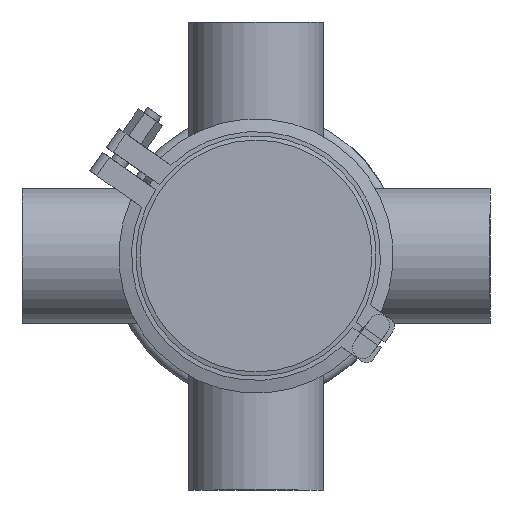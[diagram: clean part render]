
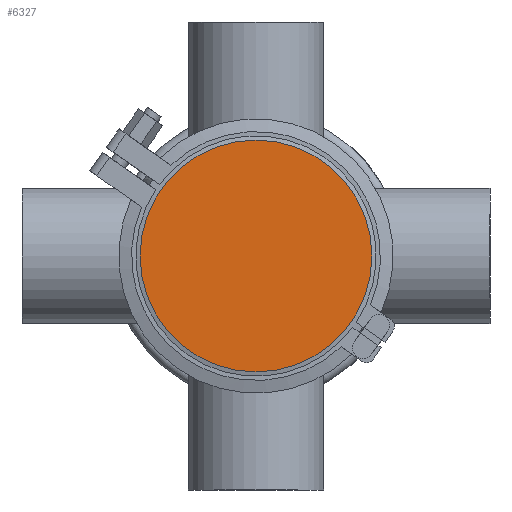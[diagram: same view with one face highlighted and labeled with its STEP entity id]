
A CAD part, front view. The second image highlights one B-rep face of the part: STEP entity #6327.
In plain terms, the highlighted planar face has unit normal (0, -1, 0).
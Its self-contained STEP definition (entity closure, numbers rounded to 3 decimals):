
#267 = PLANE ( 'NONE',  #8307 ) ;
#340 = DIRECTION ( 'NONE',  ( 0., 0., 1. ) ) ;
#2397 = CARTESIAN_POINT ( 'NONE',  ( 0., 0., 54.5 ) ) ;
#4189 = VERTEX_POINT ( 'NONE', #2397 ) ;
#6327 = ADVANCED_FACE ( 'NONE', ( #13768 ), #267, .T. ) ;
#7644 = CIRCLE ( 'NONE', #9025, 54.5 ) ;
#8307 = AXIS2_PLACEMENT_3D ( 'NONE', #13550, #11722, #18390 ) ;
#8802 = CARTESIAN_POINT ( 'NONE',  ( 0., 0., 0. ) ) ;
#9025 = AXIS2_PLACEMENT_3D ( 'NONE', #8802, #16859, #340 ) ;
#11722 = DIRECTION ( 'NONE',  ( 0., -1., 0. ) ) ;
#13550 = CARTESIAN_POINT ( 'NONE',  ( -54.5, 0., 0. ) ) ;
#13768 = FACE_OUTER_BOUND ( 'NONE', #14971, .T. ) ;
#14971 = EDGE_LOOP ( 'NONE', ( #16474 ) ) ;
#15669 = EDGE_CURVE ( 'NONE', #4189, #4189, #7644, .T. ) ;
#16474 = ORIENTED_EDGE ( 'NONE', *, *, #15669, .F. ) ;
#16859 = DIRECTION ( 'NONE',  ( 0., 1., 0. ) ) ;
#18390 = DIRECTION ( 'NONE',  ( 0., 0., -1. ) ) ;
